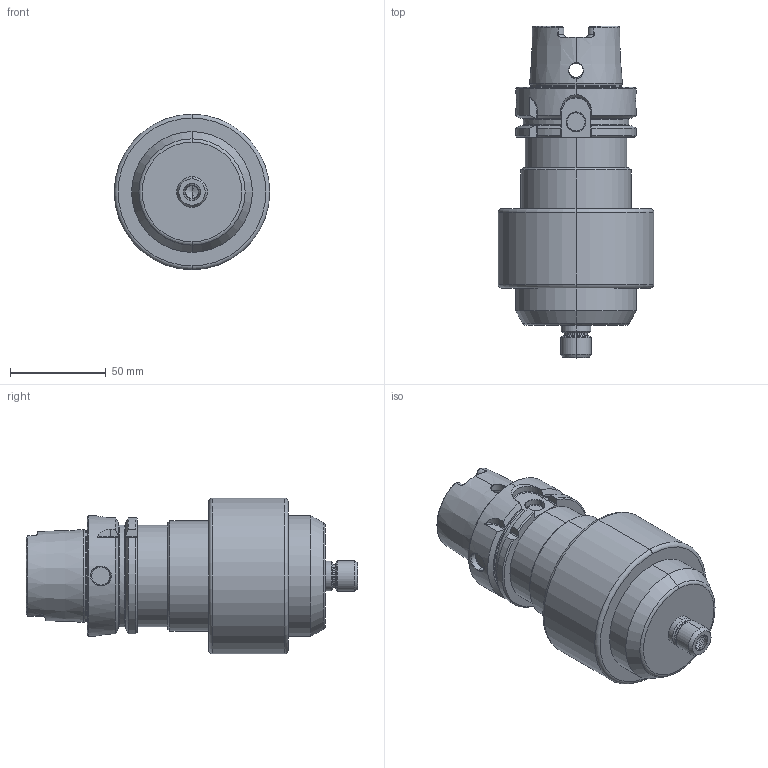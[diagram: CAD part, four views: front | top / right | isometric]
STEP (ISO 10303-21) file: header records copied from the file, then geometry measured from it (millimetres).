
FILE_DESCRIPTION (( 'STEP AP214' ), '1' );
FILE_NAME ('TJS-GJET-HSK A63-Light.STEP', '2018-03-19T06:16:39', ( '' ), ( '' ), 'SwSTEP 2.0', 'SolidWorks 2015', '' );
FILE_SCHEMA (( 'AUTOMOTIVE_DESIGN' ));
Length unit declared in the file: millimetre
Products named in the file (1): TJS-GJET-HSK A63-Light
Bounding box: 81.1 x 173.04 x 81.1 mm (x, y, z)
Volume: 441866.8 mm3; surface area: 50449.5 mm2
Topology: 1 solids, 1 shells, 258 faces, 655 edges, 410 vertices
Faces by surface type: cylinder 80, cone 74, plane 58, torus 45, bspline 1
Entity records: 10303 total; most frequent: CARTESIAN_POINT 4167, ORIENTED_EDGE 1306, DIRECTION 1278, EDGE_CURVE 653, AXIS2_PLACEMENT_3D 536, VERTEX_POINT 410, CIRCLE 278, EDGE_LOOP 275
